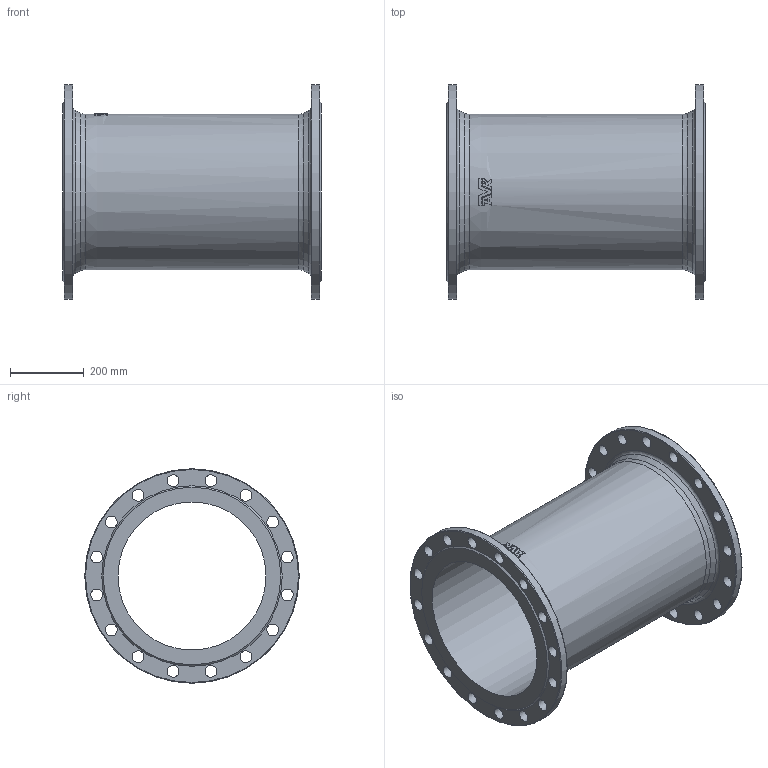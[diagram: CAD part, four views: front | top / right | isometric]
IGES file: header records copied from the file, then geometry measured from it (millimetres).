
Start section: SolidWorks IGES file using analytic representation for surfaces
Global section: file name: \\avksan2\techshare\PBM outline export from Enovia\O_712_5010_DN400_1X_REV01.igs; native system: SolidWorks 2019; preprocessor: SolidWorks 2019; author: pbm; date: 211203.111245; units: millimetre
Bounding box: 700 x 580 x 580 mm (x, y, z)
Surface area: 2341814 mm2 (no closed solid volume)
Topology: 0 solids, 0 shells, 95 faces, 479 edges, 430 vertices
Faces by surface type: revolution 52, bspline 43
